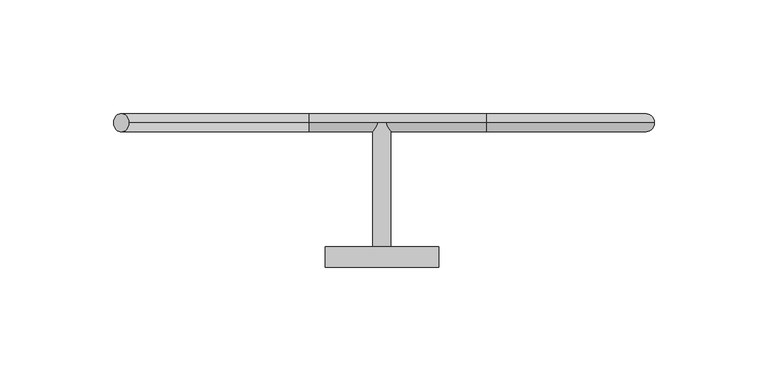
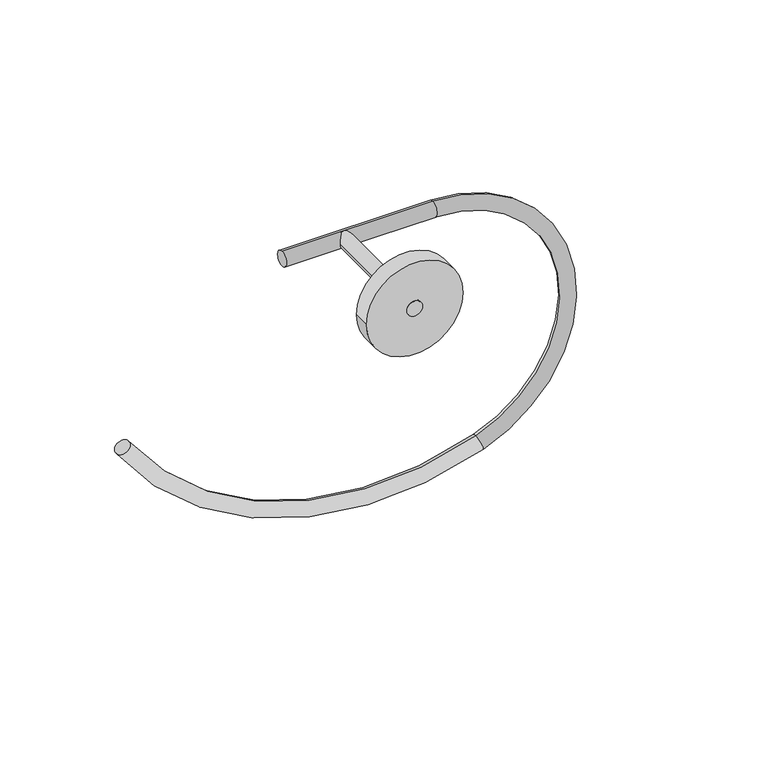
"""IFC4 building model written with IfcOpenShell, lengths in millimetres: flow terminal geometry, Toallero Dica 1009 : Toallero Dica manos 1009."""

import ifcopenshell
import ifcopenshell.guid

model = None  # the IFC model being written
_history = None  # IfcOwnerHistory: only IFC2X3 demands one
_inside = {}  # id of a spatial element -> (the spatial element, [elements in it])
_under = {}  # id of a project, library or spatial element -> (it, [spatial elements below it])
_declared = {}  # id of a project -> (the project, [libraries it declares])
_typed = {}  # id of a type object -> (the type object, [elements of that type])
_made_of = {}  # id of a material, layer set ... -> (it, [elements and type objects made of it])


def new_model(schema):
    """Start an empty IFC model of exactly this schema.

    Asked for "IFC4X3", IfcOpenShell would pick the latest addendum, in which some entities
    have other attributes; the version numbers below select the first issue.
    IFC2X3 requires an IfcOwnerHistory on every rooted entity: one is made here for all.
    """
    global model, _history
    if schema == "IFC4X3":
        model = ifcopenshell.file(schema_version=(4, 3, 0, 0))
    else:
        model = ifcopenshell.file(schema=schema)
    _inside.clear()
    _under.clear()
    _declared.clear()
    _typed.clear()
    _made_of.clear()
    _history = None
    if model.schema == "IFC2X3":
        org = make("IfcOrganization", Name="unknown")
        user = make(
            "IfcPersonAndOrganization",
            ThePerson=make("IfcPerson", FamilyName="unknown"),
            TheOrganization=org,
        )
        app = make(
            "IfcApplication",
            ApplicationDeveloper=org,
            Version="unknown",
            ApplicationFullName="unknown",
            ApplicationIdentifier="unknown",
        )
        _history = make(
            "IfcOwnerHistory",
            OwningUser=user,
            OwningApplication=app,
            ChangeAction="ADDED",
            CreationDate=0,
        )
    return model


def make(cls, **values):
    """One entity of the class cls with the attributes given. An attribute that is None is left unset."""
    return model.create_entity(
        cls, **{name: value for name, value in values.items() if value is not None}
    )


def rooted(cls, **values):
    """An entity with a GlobalId (a new one), such as an element, a storey or a relation."""
    return make(cls, GlobalId=ifcopenshell.guid.new(), OwnerHistory=_history, **values)


def si_unit(unit_type, name, prefix=None):
    """IfcSIUnit, for example si_unit("LENGTHUNIT", "METRE", prefix="MILLI")."""
    return make("IfcSIUnit", UnitType=unit_type, Prefix=prefix, Name=name)


def assignment(units):
    """IfcUnitAssignment: the units of a project."""
    return None if units is None else make("IfcUnitAssignment", Units=units)


def point(xyz):
    """IfcCartesianPoint."""
    return None if xyz is None else make("IfcCartesianPoint", Coordinates=xyz)


def direction(xyz):
    """IfcDirection."""
    return None if xyz is None else make("IfcDirection", DirectionRatios=xyz)


def frame(location, z_axis=None, x_axis=None):
    """IfcAxis2Placement3D, a coordinate frame: its origin and axes. An axis left out is left unset."""
    return make(
        "IfcAxis2Placement3D",
        Location=point(location),
        Axis=direction(z_axis),
        RefDirection=direction(x_axis),
    )


def frame_2d(location, x_axis=None):
    """IfcAxis2Placement2D, a coordinate frame in the plane: its origin and x axis."""
    return make(
        "IfcAxis2Placement2D", Location=point(location), RefDirection=direction(x_axis)
    )


def origin():
    """The frame at (0, 0, 0) with its axes left unset."""
    return frame((0.0, 0.0, 0.0))


def place(relative_to, where):
    """IfcLocalPlacement: puts the frame where relative to a parent placement (None: the world)."""
    return make(
        "IfcLocalPlacement", PlacementRelTo=relative_to, RelativePlacement=where
    )


def context(
    kind, dimensions, precision=None, world=None, true_north=None, identifier=None
):
    """IfcGeometricRepresentationContext, for example the 3D "Model" context."""
    return make(
        "IfcGeometricRepresentationContext",
        ContextIdentifier=identifier,
        ContextType=kind,
        CoordinateSpaceDimension=dimensions,
        Precision=precision,
        WorldCoordinateSystem=world,
        TrueNorth=true_north,
    )


def project(units=None, contexts=None):
    """IfcProject with its units and contexts."""
    return rooted(
        "IfcProject",
        Name="project",
        RepresentationContexts=contexts,
        UnitsInContext=assignment(units),
    )


def spatial(cls, under=None, at=None, **own):
    """A site, building, storey or space (cls), placed at a placement, below another one or the project."""
    s = rooted(cls, ObjectPlacement=at, **own)
    if under is not None:
        _under.setdefault(under.id(), (under, []))[1].append(s)
    return s


def circle_curve(where, radius):
    """IfcCircle in the frame where."""
    return make("IfcCircle", Position=where, Radius=radius)


def ellipse_curve(where, semi_axis1, semi_axis2):
    """IfcEllipse in the frame where."""
    return make(
        "IfcEllipse", Position=where, SemiAxis1=semi_axis1, SemiAxis2=semi_axis2
    )


def trimmed(basis, trim1, trim2, sense, master):
    """IfcTrimmedCurve: the piece of a basis curve between two trims."""
    return make(
        "IfcTrimmedCurve",
        BasisCurve=basis,
        Trim1=trim1,
        Trim2=trim2,
        SenseAgreement=sense,
        MasterRepresentation=master,
    )


def segment(curve, same_sense, transition):
    """IfcCompositeCurveSegment."""
    return make(
        "IfcCompositeCurveSegment",
        Transition=transition,
        SameSense=same_sense,
        ParentCurve=curve,
    )


def composite_curve(segments, self_intersect=None):
    """IfcCompositeCurve: segments joined end to end."""
    return make("IfcCompositeCurve", Segments=segments, SelfIntersect=self_intersect)


def outline(outer, holes=None, kind="AREA"):
    """IfcArbitraryClosedProfileDef: a profile drawn as a closed curve; with holes, ...WithVoids."""
    if holes is None:
        return make("IfcArbitraryClosedProfileDef", ProfileType=kind, OuterCurve=outer)
    return make(
        "IfcArbitraryProfileDefWithVoids",
        ProfileType=kind,
        OuterCurve=outer,
        InnerCurves=holes,
    )


def extrude(swept, where, along, depth):
    """IfcExtrudedAreaSolid: the profile swept, set in the frame where, extruded along a direction by depth."""
    return make(
        "IfcExtrudedAreaSolid",
        SweptArea=swept,
        Position=where,
        ExtrudedDirection=direction(along),
        Depth=depth,
    )


def shape(context_of_items, identifier, shape_type, items):
    """IfcShapeRepresentation: the items that make up one representation, for example the "Body"."""
    return make(
        "IfcShapeRepresentation",
        ContextOfItems=context_of_items,
        RepresentationIdentifier=identifier,
        RepresentationType=shape_type,
        Items=items,
    )


def source(mapping_origin, context_of_items, identifier, shape_type, items):
    """IfcRepresentationMap: a shape defined once, which mapped items show again and again."""
    return make(
        "IfcRepresentationMap",
        MappingOrigin=mapping_origin,
        MappedRepresentation=shape(context_of_items, identifier, shape_type, items),
    )


def transform(
    local_origin,
    x_axis=None,
    y_axis=None,
    z_axis=None,
    scale=None,
    scale2=None,
    scale3=None,
    uniform=True,
):
    """IfcCartesianTransformationOperator3D, or its non-uniform kind. x_axis, y_axis, z_axis: its Axis1, 2, 3."""
    if uniform:
        return make(
            "IfcCartesianTransformationOperator3D",
            Axis1=direction(x_axis),
            Axis2=direction(y_axis),
            LocalOrigin=point(local_origin),
            Scale=scale,
            Axis3=direction(z_axis),
        )
    return make(
        "IfcCartesianTransformationOperator3DnonUniform",
        Axis1=direction(x_axis),
        Axis2=direction(y_axis),
        LocalOrigin=point(local_origin),
        Scale=scale,
        Axis3=direction(z_axis),
        Scale2=scale2,
        Scale3=scale3,
    )


def mapped(mapping_source, mapping_target):
    """IfcMappedItem: shows the shape of a source again, moved by a transform."""
    return make(
        "IfcMappedItem", MappingSource=mapping_source, MappingTarget=mapping_target
    )


def made_of(thing, what):
    """Note that an element or type object is made of a material, layer set ...; save() writes the relation."""
    if what is not None:
        _made_of.setdefault(what.id(), (what, []))[1].append(thing)
    return thing


def element(
    cls,
    number,
    at=None,
    inside=None,
    cuts=None,
    type_object=None,
    material=None,
    context=None,
    identifier="Body",
    shape_type=None,
    held_by="IfcProductDefinitionShape",
    body=None,
    shapes=None,
    **own,
):
    """One element of the class cls, such as IfcWall. Its Tag is "e" and its number.

    at: its placement. inside: the storey or other place that contains it. cuts: it is an
    opening in that element (IfcRelVoidsElement). A single representation is given by context,
    identifier, shape_type and body (its items); several are given by shapes. held_by: the class
    of the entity that holds the representations. save() writes the other relations.
    """
    e = rooted(cls, Tag="e%d" % number, ObjectPlacement=at, **own)
    if body is not None:
        shapes = [shape(context, identifier, shape_type, body)]
    if shapes is not None:
        e.Representation = make(held_by, Representations=shapes)
    if inside is not None:
        _inside.setdefault(inside.id(), (inside, []))[1].append(e)
    if cuts is not None:
        rooted(
            "IfcRelVoidsElement", RelatingBuildingElement=cuts, RelatedOpeningElement=e
        )
    if type_object is not None:
        _typed.setdefault(type_object.id(), (type_object, []))[1].append(e)
    return made_of(e, material)


def aggregate(whole, parts):
    """IfcRelAggregates: a whole, such as a stair, and the parts it consists of."""
    return rooted("IfcRelAggregates", RelatingObject=whole, RelatedObjects=parts)


def save(model, path):
    """Write the relations noted so far, then the file.

    IfcRelAggregates (storeys below a building ...), IfcRelContainedInSpatialStructure (elements
    in a storey), IfcRelDefinesByType, IfcRelAssociatesMaterial and IfcRelDeclares: one each for
    every whole, place, type object, material and project.
    """
    for whole, parts in _under.values():
        aggregate(whole, parts)
    for where, things in _inside.values():
        rooted(
            "IfcRelContainedInSpatialStructure",
            RelatedElements=things,
            RelatingStructure=where,
        )
    for kind, things in _typed.values():
        rooted("IfcRelDefinesByType", RelatedObjects=things, RelatingType=kind)
    for what, things in _made_of.values():
        rooted("IfcRelAssociatesMaterial", RelatedObjects=things, RelatingMaterial=what)
    for by, libraries in _declared.values():
        rooted("IfcRelDeclares", RelatingContext=by, RelatedDefinitions=libraries)
    model.write(path)


def plane_surface(at):
    """IfcPlane: the flat surface through the origin of the frame at, square to its z axis."""
    return make("IfcPlane", Position=at)


def cylinder_surface(at, radius):
    """IfcCylindricalSurface: all points at the distance radius from the z axis of the frame at."""
    return make("IfcCylindricalSurface", Position=at, Radius=radius)


def revolved_surface(curve, axis_point, axis_direction):
    """IfcSurfaceOfRevolution: the curve turned about the line through axis_point along axis_direction."""
    return make(
        "IfcSurfaceOfRevolution",
        SweptCurve=make("IfcArbitraryOpenProfileDef", ProfileType="CURVE", Curve=curve),
        AxisPosition=make("IfcAxis1Placement", Location=point(axis_point), Axis=direction(axis_direction)),
    )


def advanced_brep(points, edges, surfaces, faces):
    """IfcAdvancedBrep: a solid bounded by faces that lie on surfaces and meet in shared edges.

    An edge is (start, end): straight between two places in points (the first is 0);
    or (start, end, curve); or (start, end, curve, False) where it runs against its curve.
    A face is (place in surfaces, loops), or (place, loops, False) where it looks against
    its surface's normal. A loop lists edges by number (the first is 1), with a minus sign
    where the edge is run from its end to its start. The first loop is the outer one.
    """
    corners = [point(p) for p in points]
    vertices = [make("IfcVertexPoint", VertexGeometry=c) for c in corners]
    made = []
    for start, end, *more in edges:
        made.append(
            make(
                "IfcEdgeCurve",
                EdgeStart=vertices[start],
                EdgeEnd=vertices[end],
                EdgeGeometry=more[0] if more else make("IfcPolyline", Points=[corners[start], corners[end]]),
                SameSense=more[1] if len(more) > 1 else True,
            )
        )
    hull = []
    for where, loops, *sense in faces:
        bounds = []
        for j, loop in enumerate(loops):
            ring = [make("IfcOrientedEdge", EdgeElement=made[abs(k) - 1], Orientation=k > 0) for k in loop]
            bounds.append(
                make(
                    "IfcFaceOuterBound" if j == 0 else "IfcFaceBound",
                    Bound=make("IfcEdgeLoop", EdgeList=ring),
                    Orientation=True,
                )
            )
        hull.append(make("IfcAdvancedFace", Bounds=bounds, FaceSurface=surfaces[where], SameSense=sense[0] if sense else True))
    return make("IfcAdvancedBrep", Outer=make("IfcClosedShell", CfsFaces=hull))


def flow_terminal_974a7598(model_context):
    return source(origin(), model_context, "Body", "SolidModel", [
        extrude(outline(composite_curve([segment(trimmed(circle_curve(frame_2d((0.0, 125.0)), 4.0), [point((0.0, 121.0))], [point((0.0, 129.0))], False, "CARTESIAN"), True, "CONTINUOUS"), segment(trimmed(circle_curve(frame_2d((0.0, 125.0)), 4.0), [point((0.0, 129.0))], [point((0.0, 121.0))], False, "CARTESIAN"), True, "CONTINUOUS")], self_intersect=False)), frame((0.0, 70.0, 0.0), z_axis=(0.0, 1.0, 0.0), x_axis=(0.0, 0.0, 1.0)), (0.0, 0.0, 1.0), 63.3830496),
        extrude(outline(composite_curve([segment(trimmed(circle_curve(frame_2d((0.0, 125.0)), 25.0), [point((0.0, 100.0))], [point((0.0, 150.0))], False, "CARTESIAN"), True, "CONTINUOUS"), segment(trimmed(circle_curve(frame_2d((0.0, 125.0)), 25.0), [point((0.0, 150.0))], [point((0.0, 100.0))], False, "CARTESIAN"), True, "CONTINUOUS")], self_intersect=False)), frame((0.0, 70.0, 0.0), z_axis=(0.0, 1.0, 0.0), x_axis=(0.0, 0.0, 1.0)), (0.0, 0.0, 1.0), 8.9918697),
        advanced_brep(
        [(92.9954104, 133.5, -4.0), (92.9954104, 133.5, 4.0), (170.9338842, 133.5, -4.0), (170.9338842, 133.5, 4.0), (196.0697012, 133.5, -139.6002206), (193.3523155, 133.5, -132.0758724), (13.6299481, 133.5, -72.0247315), (6.935123, 133.5, -76.4041512)],
        [
            (0, 1, circle_curve(frame((92.9954104, 133.5, 0.0), z_axis=(-1.0, 0.0, 0.0), x_axis=(0.0, 0.0, 1.0)), 4.0)),
            (1, 0, circle_curve(frame((92.9954104, 133.5, 0.0), z_axis=(-1.0, 0.0, 0.0), x_axis=(0.0, 0.0, 1.0)), 4.0)),
            (0, 2),
            (2, 3, circle_curve(frame((170.9338842, 133.5, 0.0), z_axis=(-1.0, 0.0, 0.0), x_axis=(0.0, 0.0, 1.0)), 4.0)),
            (3, 1),
            (3, 2, circle_curve(frame((170.9338842, 133.5, 0.0), z_axis=(-1.0, 0.0, 0.0), x_axis=(0.0, 0.0, 1.0)), 4.0)),
            (4, 3, circle_curve(frame((170.9338842, 133.5, -70.0), z_axis=(0.0, -1.0, 0.0), x_axis=(0.0, 0.0, 1.0)), 74.0)),
            (2, 5, circle_curve(frame((170.9338842, 133.5, -70.0), z_axis=(0.0, 1.0, 0.0), x_axis=(0.0, 0.0, 1.0)), 66.0)),
            (5, 4, circle_curve(frame((194.7110083, 133.5, -135.8380465), z_axis=(0.940543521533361, 0.0, 0.3396732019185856), x_axis=(0.3396732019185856, 0.0, -0.940543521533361)), 4.0)),
            (4, 5, circle_curve(frame((194.7110083, 133.5, -135.8380465), z_axis=(0.9405435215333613, 0.0, 0.33967320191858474), x_axis=(0.33967320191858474, 0.0, -0.9405435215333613)), 4.0)),
            (6, 7, circle_curve(frame((10.2825356, 133.5, -74.2144413), z_axis=(-0.5474274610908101, 0.0, 0.8368531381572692), x_axis=(-0.8368531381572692, 0.0, -0.5474274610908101)), 4.0)),
            (7, 6, circle_curve(frame((10.2825356, 133.5, -74.2144413), z_axis=(-0.5474274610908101, 0.0, 0.8368531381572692), x_axis=(-0.8368531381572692, 0.0, -0.5474274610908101)), 4.0)),
            (7, 4, circle_curve(frame((141.4649332, 133.5, 11.5985211), z_axis=(0.0, -1.0, 0.0), x_axis=(0.33967320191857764, 0.0, -0.9405435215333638)), 160.7567733)),
            (5, 6, circle_curve(frame((141.4649332, 133.5, 11.5985211), z_axis=(0.0, 1.0, 0.0), x_axis=(0.33967320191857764, 0.0, -0.9405435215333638)), 152.7567733)),
        ],
        [
            plane_surface(frame((92.9954104, 70.0, 0.0), z_axis=(-1.0, 0.0, 0.0), x_axis=(0.0, -1.0, 0.0))),
            cylinder_surface(frame((92.9954104, 133.5, 0.0), z_axis=(-1.0, 0.0, 0.0), x_axis=(0.0, 0.0, 1.0)), 4.0),
            revolved_surface(trimmed(ellipse_curve(frame((170.9338842, 133.5, 0.0), z_axis=(-1.0, 0.0, 0.0), x_axis=(0.0, 0.0, 1.0)), 4.0, 4.0), [point((170.9338842, 133.5, -4.0))], [point((170.9338842, 133.5, 4.0))], True, "CARTESIAN"), (170.9338842, 70.0, -70.0), (0.0, 1.0, 0.0)),
            revolved_surface(trimmed(ellipse_curve(frame((170.9338842, 133.5, 0.0), z_axis=(-1.0, 0.0, 0.0), x_axis=(0.0, 0.0, 1.0)), 4.0, 4.0), [point((170.9338842, 133.5, 4.0))], [point((170.9338842, 133.5, -4.0))], True, "CARTESIAN"), (170.9338842, 70.0, -70.0), (0.0, 1.0, 0.0)),
            plane_surface(frame((10.2825356, 70.0, -74.2144413), z_axis=(-0.5474274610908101, 0.0, 0.8368531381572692), x_axis=(0.0, -1.0, 0.0))),
            revolved_surface(trimmed(ellipse_curve(frame((194.7110083, 133.5, -135.8380465), z_axis=(0.9405435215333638, 0.0, 0.33967320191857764), x_axis=(0.33967320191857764, 0.0, -0.9405435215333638)), 4.0, 4.0), [point((193.3523155, 133.5, -132.0758724))], [point((196.0697012, 133.5, -139.6002206))], True, "CARTESIAN"), (141.4649332, 70.0, 11.5985211), (0.0, 1.0, 0.0)),
            revolved_surface(trimmed(ellipse_curve(frame((194.7110083, 133.5, -135.8380465), z_axis=(0.9405435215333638, 0.0, 0.33967320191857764), x_axis=(0.33967320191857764, 0.0, -0.9405435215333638)), 4.0, 4.0), [point((196.0697012, 133.5, -139.6002206))], [point((193.3523155, 133.5, -132.0758724))], True, "CARTESIAN"), (141.4649332, 70.0, 11.5985211), (0.0, 1.0, 0.0)),
        ],
        [
            (0, [[1, 2]]),
            (1, [[-1, 3, 4, 5]]),
            (1, [[-2, -5, 6, -3]]),
            (2, [[7, -4, 8, 9]]),
            (3, [[-8, -6, -7, 10]]),
            (4, [[11, 12]]),
            (5, [[13, -9, 14, -12]]),
            (6, [[-14, -10, -13, -11]]),
        ],
    ),
    ])


if __name__ == "__main__":
    model = new_model("IFC4")
    model_context = context("Model", 3, world=origin())
    ifc_project = project(units=[si_unit("LENGTHUNIT", "METRE", prefix="MILLI")], contexts=[model_context])
    site = spatial("IfcSite", under=ifc_project)
    building = spatial("IfcBuilding", under=site)
    placement = place(None, origin())
    flow_terminal_shape = flow_terminal_974a7598(model_context)
    element("IfcFlowTerminal", 1, ObjectType="Toallero Dica 1009 : Toallero Dica manos 1009", at=placement, inside=building, context=model_context, shape_type="MappedRepresentation", body=[
        mapped(flow_terminal_shape, transform((0.0, 0.0, 0.0), x_axis=(1.0, 0.0, 0.0), y_axis=(0.0, 1.0, 0.0), z_axis=(0.0, 0.0, 1.0))),
    ])
    save(model, "model.ifc")
